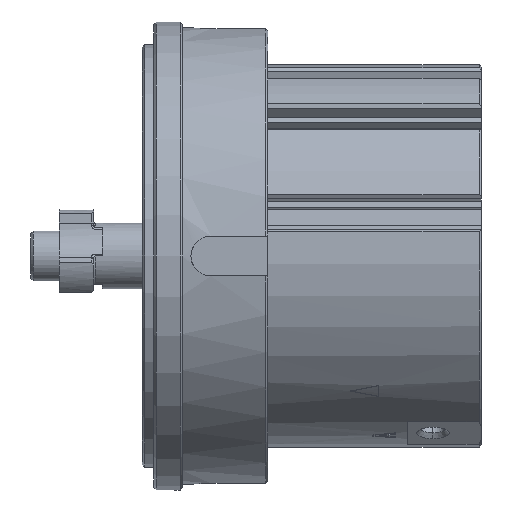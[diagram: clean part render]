
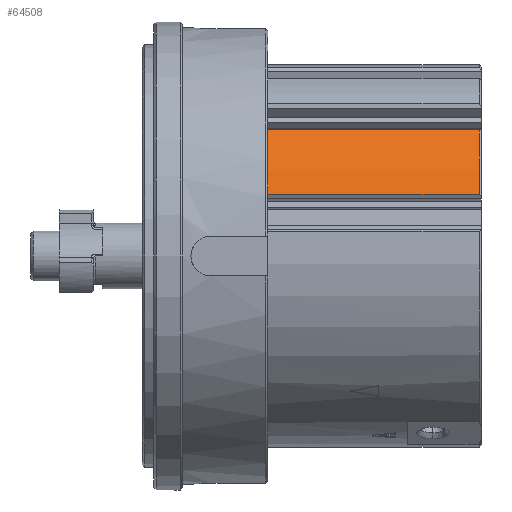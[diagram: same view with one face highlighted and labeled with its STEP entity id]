
A CAD part, left-side view. The second image highlights one B-rep face of the part: STEP entity #64508.
In plain terms, the highlighted cylindrical face has radius 33.5 mm (diameter 67 mm), a partial arc.
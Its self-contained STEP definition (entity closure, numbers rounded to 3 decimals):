
#572 = CARTESIAN_POINT ( 'NONE',  ( -25.178, 68.366, 22.098 ) ) ;
#1085 = ORIENTED_EDGE ( 'NONE', *, *, #50417, .T. ) ;
#4972 = EDGE_CURVE ( 'NONE', #55434, #55976, #51738, .T. ) ;
#15070 = FACE_OUTER_BOUND ( 'NONE', #37930, .T. ) ;
#18356 = DIRECTION ( 'NONE',  ( 0., 1., 0. ) ) ;
#20506 = CARTESIAN_POINT ( 'NONE',  ( -25.178, 0.4, 22.098 ) ) ;
#23306 = LINE ( 'NONE', #49613, #34775 ) ;
#24897 = CARTESIAN_POINT ( 'NONE',  ( 0., 0.4, 0. ) ) ;
#25526 = ORIENTED_EDGE ( 'NONE', *, *, #29198, .T. ) ;
#25576 = AXIS2_PLACEMENT_3D ( 'NONE', #32593, #18356, #71401 ) ;
#26436 = CARTESIAN_POINT ( 'NONE',  ( -31.727, 38., 10.755 ) ) ;
#29198 = EDGE_CURVE ( 'NONE', #36549, #55976, #63271, .T. ) ;
#32593 = CARTESIAN_POINT ( 'NONE',  ( 0., 38., 0. ) ) ;
#34775 = VECTOR ( 'NONE', #75922, 1000. ) ;
#36359 = ORIENTED_EDGE ( 'NONE', *, *, #4972, .F. ) ;
#36549 = VERTEX_POINT ( 'NONE', #20506 ) ;
#37930 = EDGE_LOOP ( 'NONE', ( #77066, #25526, #36359, #1085 ) ) ;
#41342 = CARTESIAN_POINT ( 'NONE',  ( -31.727, 0.4, 10.755 ) ) ;
#44739 = DIRECTION ( 'NONE',  ( 0., 0., 1. ) ) ;
#47587 = DIRECTION ( 'NONE',  ( 0., 1., 0. ) ) ;
#48325 = AXIS2_PLACEMENT_3D ( 'NONE', #24897, #51204, #44739 ) ;
#48733 = DIRECTION ( 'NONE',  ( 0., 0., 1. ) ) ;
#49613 = CARTESIAN_POINT ( 'NONE',  ( -31.727, 68.366, 10.755 ) ) ;
#50417 = EDGE_CURVE ( 'NONE', #55434, #79715, #23306, .T. ) ;
#51204 = DIRECTION ( 'NONE',  ( 0., 1., 0. ) ) ;
#51738 = CIRCLE ( 'NONE', #25576, 33.5 ) ;
#55434 = VERTEX_POINT ( 'NONE', #26436 ) ;
#55976 = VERTEX_POINT ( 'NONE', #71667 ) ;
#62519 = CARTESIAN_POINT ( 'NONE',  ( 0., 68.366, 0. ) ) ;
#63271 = LINE ( 'NONE', #572, #69474 ) ;
#64508 = ADVANCED_FACE ( 'NONE', ( #15070 ), #82379, .T. ) ;
#66232 = CIRCLE ( 'NONE', #48325, 33.5 ) ;
#67714 = DIRECTION ( 'NONE',  ( 0., 1., 0. ) ) ;
#69474 = VECTOR ( 'NONE', #47587, 1000. ) ;
#71401 = DIRECTION ( 'NONE',  ( 0., 0., 1. ) ) ;
#71667 = CARTESIAN_POINT ( 'NONE',  ( -25.178, 38., 22.098 ) ) ;
#73349 = AXIS2_PLACEMENT_3D ( 'NONE', #62519, #67714, #48733 ) ;
#75922 = DIRECTION ( 'NONE',  ( 0., -1., 0. ) ) ;
#77066 = ORIENTED_EDGE ( 'NONE', *, *, #82028, .T. ) ;
#79715 = VERTEX_POINT ( 'NONE', #41342 ) ;
#82028 = EDGE_CURVE ( 'NONE', #79715, #36549, #66232, .T. ) ;
#82379 = CYLINDRICAL_SURFACE ( 'NONE', #73349, 33.5 ) ;
